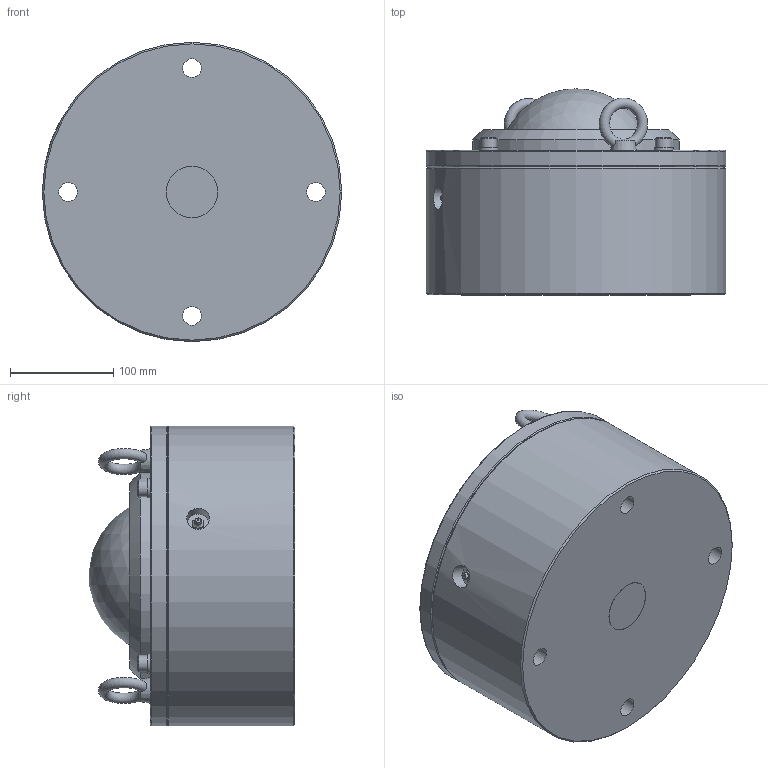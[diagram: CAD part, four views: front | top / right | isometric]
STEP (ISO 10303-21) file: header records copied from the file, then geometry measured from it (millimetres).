
FILE_DESCRIPTION(/* description */ (''),/* implementation_level */ '2;1');
FILE_NAME(/* name */ 'Z:\35-j-ito\製品モデル\IS\IS-150\社外用モデル\IS-150.stp',/* time_stamp */ '2021-06-11T13:11:36+09:00',/* author */ ('j-ito'),/* organization */ (''),/* preprocessor_version */ 'ST-DEVELOPER v18.1',/* originating_system */ 'Autodesk Inventor 2022',/* authorisation */ '');
FILE_SCHEMA (('AUTOMOTIVE_DESIGN { 1 0 10303 214 3 1 1 }'));
Length unit declared in the file: millimetre
Products named in the file (6): IS-150; Part1; Part4; Part2; Part3; Part5
Assembly tree (12 placements, depth 2):
  IS-150
    Part1
    Part4
    Part2  x4
    Part3  x4
    Part5  x2
Bounding box: 290 x 199.51 x 290 mm (x, y, z)
Volume: 10030914.4 mm3; surface area: 347478.2 mm2
Topology: 12 solids, 12 shells, 213 faces, 441 edges, 273 vertices
Faces by surface type: plane 115, cylinder 44, cone 42, torus 9, sphere 3
Full cylindrical faces by diameter (mm): 6.6 x1, 7.95 x1, 8.376 x4, 9.4 x2, 10 x4, 10.106 x2, 10.3 x4, 12 x2, 16 x4, 18 x6, 22 x1, 50 x1, 138 x1, 200 x1, 290 x2
Entity records: 3668 total; most frequent: CARTESIAN_POINT 759, DIRECTION 619, ORIENTED_EDGE 498, AXIS2_PLACEMENT_3D 266, EDGE_CURVE 249, VERTEX_POINT 161, EDGE_LOOP 160, FACE_OUTER_BOUND 124
